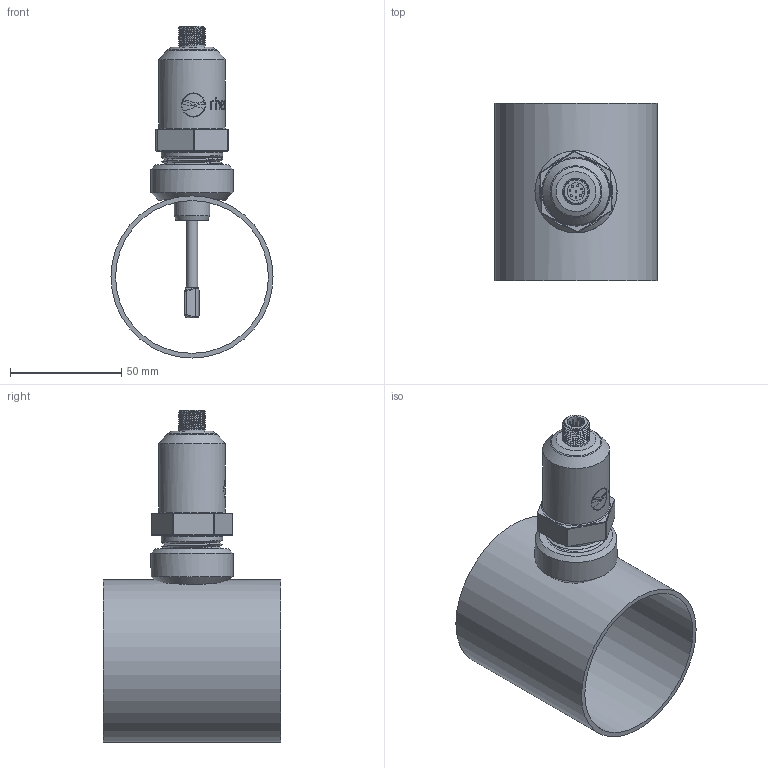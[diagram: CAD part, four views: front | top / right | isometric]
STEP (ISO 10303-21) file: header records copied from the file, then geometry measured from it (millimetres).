
FILE_DESCRIPTION(/* description */ ('Unknown'),/* implementation_level */ '2;1');
FILE_NAME(/* name */ 'WOL-34NL_SRD_Pipeline',/* time_stamp */ '2023-02-08T10:59:49-05:00',/* author */ ('Unknown'),/* organization */ ('Unknown'),/* preprocessor_version */ 'ST-DEVELOPER v16.7',/* originating_system */ 'Solid Edge',/* authorisation */ 'Unknown');
FILE_SCHEMA (('AUTOMOTIVE_DESIGN {1 0 10303 214 3 1 1}'));
Length unit declared in the file: millimetre
Products named in the file (4): WOL-34NL_SRD; P3_A; P1_A; P5_A
Assembly tree (3 placements, depth 2):
  WOL-34NL_SRD
    P3_A
    P1_A
    P5_A
Bounding box: 73 x 80 x 149.52 mm (x, y, z)
Volume: 93362.8 mm3; surface area: 50617.4 mm2
Topology: 3 solids, 3 shells, 274 faces, 676 edges, 416 vertices
Faces by surface type: bspline 98, plane 82, cylinder 51, cone 23, sphere 12, torus 8
Full cylindrical faces by diameter (mm): 0.8 x8, 5 x1, 8 x1, 12 x7, 16 x1, 24 x1, 30 x1, 37 x1, 68.78 x1, 73 x1
Entity records: 18899 total; most frequent: CARTESIAN_POINT 12077, ORIENTED_EDGE 1104, DIRECTION 758, EDGE_CURVE 552, VERTEX_POINT 362, EDGE_LOOP 326, FACE_BOUND 326, AXIS2_PLACEMENT_3D 274
